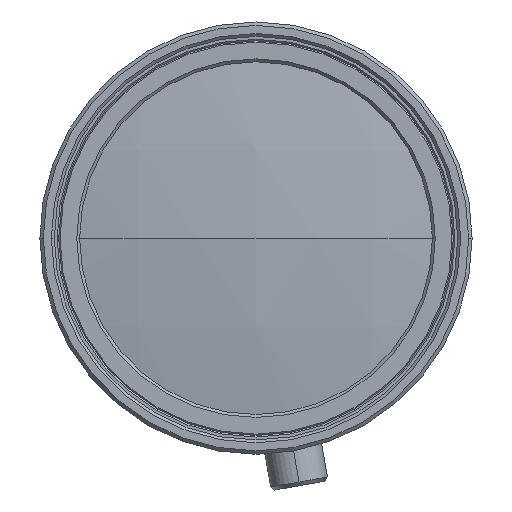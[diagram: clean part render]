
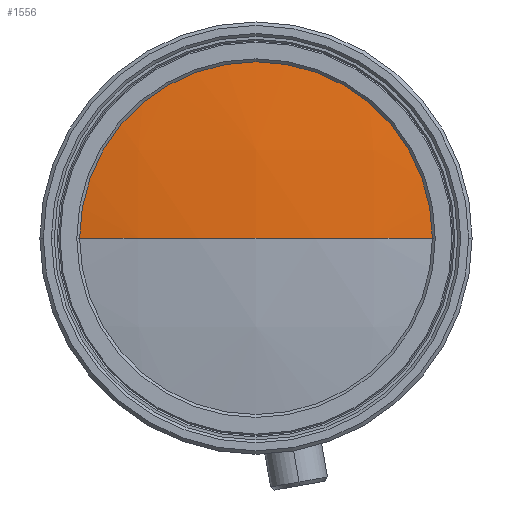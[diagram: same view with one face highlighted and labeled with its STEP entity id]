
A CAD part, left-side view. The second image highlights one B-rep face of the part: STEP entity #1556.
In plain terms, the highlighted spherical face has radius 95.7 mm.
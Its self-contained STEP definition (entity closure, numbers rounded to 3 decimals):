
#3 = CIRCLE ( 'NONE', #984, 95.7 ) ;
#67 = SPHERICAL_SURFACE ( 'NONE', #2277, 95.7 ) ;
#262 = ORIENTED_EDGE ( 'NONE', *, *, #2945, .F. ) ;
#508 = EDGE_LOOP ( 'NONE', ( #262, #2944, #2556 ) ) ;
#537 = AXIS2_PLACEMENT_3D ( 'NONE', #1987, #621, #2231 ) ;
#549 = CARTESIAN_POINT ( 'NONE',  ( -13.505, 0., 0. ) ) ;
#621 = DIRECTION ( 'NONE',  ( 0., 0., -1. ) ) ;
#646 = CARTESIAN_POINT ( 'NONE',  ( -107.974, 0., 0. ) ) ;
#679 = CARTESIAN_POINT ( 'NONE',  ( -107.974, -15.3, 0. ) ) ;
#800 = CARTESIAN_POINT ( 'NONE',  ( -109.205, 0., 0. ) ) ;
#880 = DIRECTION ( 'NONE',  ( 0., 1., 0. ) ) ;
#912 = CARTESIAN_POINT ( 'NONE',  ( -107.974, 15.3, 0. ) ) ;
#929 = EDGE_CURVE ( 'NONE', #1692, #1034, #1239, .T. ) ;
#984 = AXIS2_PLACEMENT_3D ( 'NONE', #549, #2158, #1910 ) ;
#1034 = VERTEX_POINT ( 'NONE', #679 ) ;
#1185 = AXIS2_PLACEMENT_3D ( 'NONE', #646, #2487, #880 ) ;
#1202 = FACE_OUTER_BOUND ( 'NONE', #508, .T. ) ;
#1203 = EDGE_CURVE ( 'NONE', #1859, #1034, #3, .T. ) ;
#1239 = CIRCLE ( 'NONE', #1185, 15.3 ) ;
#1556 = ADVANCED_FACE ( 'NONE', ( #1202 ), #67, .T. ) ;
#1629 = DIRECTION ( 'NONE',  ( 0., 0., 1. ) ) ;
#1692 = VERTEX_POINT ( 'NONE', #912 ) ;
#1844 = DIRECTION ( 'NONE',  ( 0., 1., 0. ) ) ;
#1859 = VERTEX_POINT ( 'NONE', #800 ) ;
#1910 = DIRECTION ( 'NONE',  ( 0., -1., 0. ) ) ;
#1987 = CARTESIAN_POINT ( 'NONE',  ( -13.505, 0., 0. ) ) ;
#2158 = DIRECTION ( 'NONE',  ( 0., 0., 1. ) ) ;
#2231 = DIRECTION ( 'NONE',  ( -1., 0., 0. ) ) ;
#2277 = AXIS2_PLACEMENT_3D ( 'NONE', #2562, #1629, #1844 ) ;
#2487 = DIRECTION ( 'NONE',  ( 1., 0., 0. ) ) ;
#2556 = ORIENTED_EDGE ( 'NONE', *, *, #929, .F. ) ;
#2562 = CARTESIAN_POINT ( 'NONE',  ( -13.505, 0., 0. ) ) ;
#2809 = CIRCLE ( 'NONE', #537, 95.7 ) ;
#2944 = ORIENTED_EDGE ( 'NONE', *, *, #1203, .T. ) ;
#2945 = EDGE_CURVE ( 'NONE', #1859, #1692, #2809, .T. ) ;
